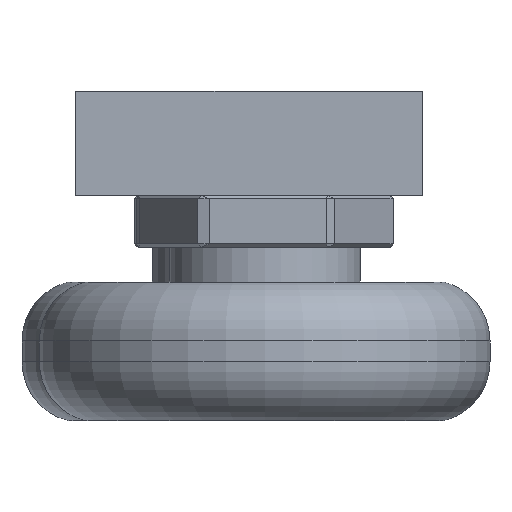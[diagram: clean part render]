
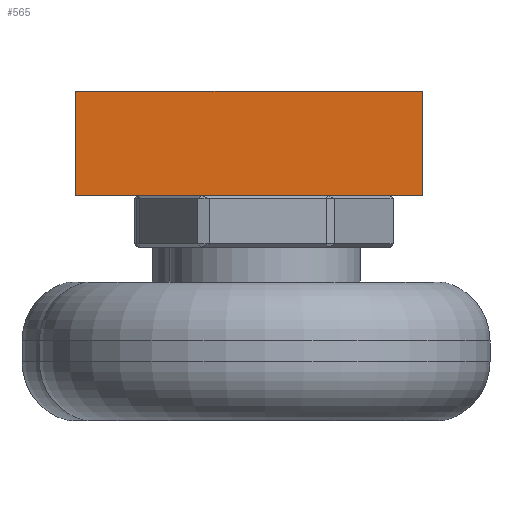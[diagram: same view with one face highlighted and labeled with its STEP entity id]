
A CAD part, left-side view. The second image highlights one B-rep face of the part: STEP entity #565.
In plain terms, the highlighted planar face has unit normal (-1, 0, 0).
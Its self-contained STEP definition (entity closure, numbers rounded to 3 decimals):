
#152 = VERTEX_POINT ( 'NONE', #2208 ) ;
#313 = EDGE_CURVE ( 'NONE', #2242, #152, #475, .T. ) ;
#367 = VERTEX_POINT ( 'NONE', #2161 ) ;
#475 = LINE ( 'NONE', #3833, #1336 ) ;
#533 = DIRECTION ( 'NONE',  ( 1., 0., 0. ) ) ;
#565 = ADVANCED_FACE ( 'NONE', ( #2951 ), #1748, .F. ) ;
#624 = ORIENTED_EDGE ( 'NONE', *, *, #1202, .F. ) ;
#872 = ORIENTED_EDGE ( 'NONE', *, *, #3899, .T. ) ;
#995 = VECTOR ( 'NONE', #1454, 1000. ) ;
#1106 = DIRECTION ( 'NONE',  ( 0., 0., -1. ) ) ;
#1202 = EDGE_CURVE ( 'NONE', #152, #367, #2768, .T. ) ;
#1270 = DIRECTION ( 'NONE',  ( 0., 0., -1. ) ) ;
#1290 = EDGE_CURVE ( 'NONE', #2242, #2821, #2811, .T. ) ;
#1332 = CARTESIAN_POINT ( 'NONE',  ( -50., 10., 3. ) ) ;
#1336 = VECTOR ( 'NONE', #2651, 1000. ) ;
#1454 = DIRECTION ( 'NONE',  ( 0., -1., 0. ) ) ;
#1666 = DIRECTION ( 'NONE',  ( 0., 0., -1. ) ) ;
#1703 = CARTESIAN_POINT ( 'NONE',  ( -50., -10., 3. ) ) ;
#1725 = VECTOR ( 'NONE', #1270, 1000. ) ;
#1748 = PLANE ( 'NONE',  #3381 ) ;
#1873 = CARTESIAN_POINT ( 'NONE',  ( -50., -10., 3. ) ) ;
#1963 = ORIENTED_EDGE ( 'NONE', *, *, #1290, .T. ) ;
#2020 = CARTESIAN_POINT ( 'NONE',  ( -50., -10., -3. ) ) ;
#2064 = LINE ( 'NONE', #2020, #995 ) ;
#2114 = ORIENTED_EDGE ( 'NONE', *, *, #313, .F. ) ;
#2161 = CARTESIAN_POINT ( 'NONE',  ( -50., -10., -3. ) ) ;
#2208 = CARTESIAN_POINT ( 'NONE',  ( -50., -10., 3. ) ) ;
#2242 = VERTEX_POINT ( 'NONE', #3382 ) ;
#2651 = DIRECTION ( 'NONE',  ( 0., -1., 0. ) ) ;
#2768 = LINE ( 'NONE', #1873, #1725 ) ;
#2804 = EDGE_LOOP ( 'NONE', ( #872, #624, #2114, #1963 ) ) ;
#2811 = LINE ( 'NONE', #1332, #3324 ) ;
#2821 = VERTEX_POINT ( 'NONE', #3718 ) ;
#2951 = FACE_OUTER_BOUND ( 'NONE', #2804, .T. ) ;
#3324 = VECTOR ( 'NONE', #1666, 1000. ) ;
#3381 = AXIS2_PLACEMENT_3D ( 'NONE', #1703, #533, #1106 ) ;
#3382 = CARTESIAN_POINT ( 'NONE',  ( -50., 10., 3. ) ) ;
#3718 = CARTESIAN_POINT ( 'NONE',  ( -50., 10., -3. ) ) ;
#3833 = CARTESIAN_POINT ( 'NONE',  ( -50., -10., 3. ) ) ;
#3899 = EDGE_CURVE ( 'NONE', #2821, #367, #2064, .T. ) ;
